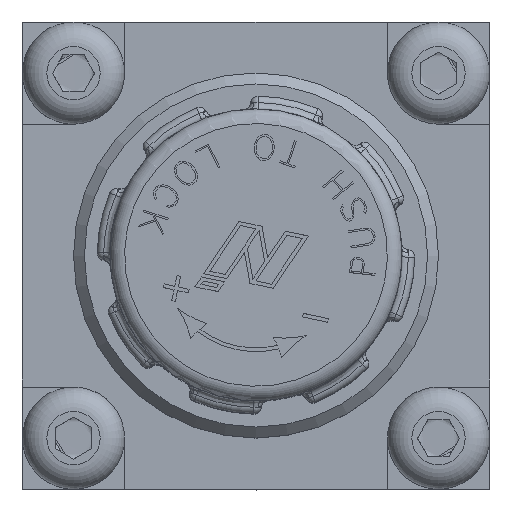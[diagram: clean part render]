
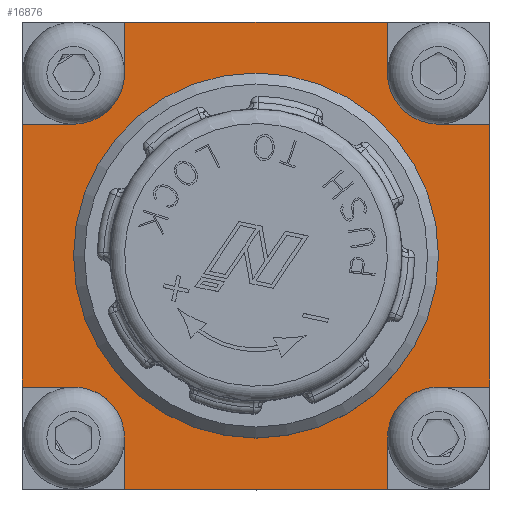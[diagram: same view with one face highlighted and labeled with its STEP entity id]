
A CAD part, top view. The second image highlights one B-rep face of the part: STEP entity #16876.
In plain terms, the highlighted planar face has unit normal (0, 0, 1).
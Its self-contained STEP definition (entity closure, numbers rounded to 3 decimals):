
#852=FACE_BOUND('',#5918,.T.);
#2285=LINE('',#29732,#3857);
#2293=LINE('',#29751,#3865);
#2295=LINE('',#29757,#3867);
#2303=LINE('',#29776,#3875);
#2305=LINE('',#29782,#3877);
#2313=LINE('',#29801,#3885);
#2319=LINE('',#29813,#3891);
#2320=LINE('',#29815,#3892);
#2323=LINE('',#29820,#3895);
#2326=LINE('',#29826,#3898);
#2330=LINE('',#29833,#3902);
#2335=LINE('',#29846,#3907);
#3857=VECTOR('',#22902,10.);
#3865=VECTOR('',#22920,10.);
#3867=VECTOR('',#22924,10.);
#3875=VECTOR('',#22942,10.);
#3877=VECTOR('',#22946,10.);
#3885=VECTOR('',#22964,10.);
#3891=VECTOR('',#22972,10.);
#3892=VECTOR('',#22975,10.);
#3895=VECTOR('',#22980,10.);
#3898=VECTOR('',#22985,10.);
#3902=VECTOR('',#22991,10.);
#3907=VECTOR('',#23006,10.);
#4858=FACE_OUTER_BOUND('',#5917,.T.);
#5917=EDGE_LOOP('',(#14966,#14967,#14968,#14969,#14970,#14971,#14972,#14973,
#14974,#14975,#14976,#14977,#14978,#14979,#14980,#14981));
#5918=EDGE_LOOP('',(#14982));
#6536=CIRCLE('',#18457,25.);
#6551=CIRCLE('',#18484,7.);
#6553=CIRCLE('',#18490,7.);
#6555=CIRCLE('',#18496,7.);
#6557=CIRCLE('',#18506,7.);
#7992=VERTEX_POINT('',#29616);
#8009=VERTEX_POINT('',#29728);
#8011=VERTEX_POINT('',#29731);
#8016=VERTEX_POINT('',#29745);
#8017=VERTEX_POINT('',#29749);
#8018=VERTEX_POINT('',#29753);
#8020=VERTEX_POINT('',#29756);
#8025=VERTEX_POINT('',#29770);
#8026=VERTEX_POINT('',#29774);
#8027=VERTEX_POINT('',#29778);
#8029=VERTEX_POINT('',#29781);
#8034=VERTEX_POINT('',#29795);
#8035=VERTEX_POINT('',#29799);
#8040=VERTEX_POINT('',#29811);
#8043=VERTEX_POINT('',#29825);
#8045=VERTEX_POINT('',#29832);
#8048=VERTEX_POINT('',#29842);
#10303=EDGE_CURVE('',#7992,#7992,#6536,.T.);
#10330=EDGE_CURVE('',#8011,#8009,#2285,.T.);
#10337=EDGE_CURVE('',#8016,#8011,#6551,.T.);
#10340=EDGE_CURVE('',#8017,#8016,#2293,.T.);
#10342=EDGE_CURVE('',#8020,#8018,#2295,.T.);
#10349=EDGE_CURVE('',#8025,#8020,#6553,.T.);
#10352=EDGE_CURVE('',#8026,#8025,#2303,.T.);
#10354=EDGE_CURVE('',#8029,#8027,#2305,.T.);
#10361=EDGE_CURVE('',#8034,#8029,#6555,.T.);
#10364=EDGE_CURVE('',#8035,#8034,#2313,.T.);
#10370=EDGE_CURVE('',#8040,#8009,#2319,.T.);
#10371=EDGE_CURVE('',#8017,#8018,#2320,.T.);
#10374=EDGE_CURVE('',#8026,#8027,#2323,.T.);
#10377=EDGE_CURVE('',#8035,#8043,#2326,.T.);
#10381=EDGE_CURVE('',#8045,#8043,#2330,.T.);
#10386=EDGE_CURVE('',#8048,#8045,#6557,.T.);
#10388=EDGE_CURVE('',#8040,#8048,#2335,.T.);
#14966=ORIENTED_EDGE('',*,*,#10330,.T.);
#14967=ORIENTED_EDGE('',*,*,#10370,.F.);
#14968=ORIENTED_EDGE('',*,*,#10388,.T.);
#14969=ORIENTED_EDGE('',*,*,#10386,.T.);
#14970=ORIENTED_EDGE('',*,*,#10381,.T.);
#14971=ORIENTED_EDGE('',*,*,#10377,.F.);
#14972=ORIENTED_EDGE('',*,*,#10364,.T.);
#14973=ORIENTED_EDGE('',*,*,#10361,.T.);
#14974=ORIENTED_EDGE('',*,*,#10354,.T.);
#14975=ORIENTED_EDGE('',*,*,#10374,.F.);
#14976=ORIENTED_EDGE('',*,*,#10352,.T.);
#14977=ORIENTED_EDGE('',*,*,#10349,.T.);
#14978=ORIENTED_EDGE('',*,*,#10342,.T.);
#14979=ORIENTED_EDGE('',*,*,#10371,.F.);
#14980=ORIENTED_EDGE('',*,*,#10340,.T.);
#14981=ORIENTED_EDGE('',*,*,#10337,.T.);
#14982=ORIENTED_EDGE('',*,*,#10303,.T.);
#15979=PLANE('',#18510);
#16876=ADVANCED_FACE('',(#4858,#852),#15979,.T.);
#18457=AXIS2_PLACEMENT_3D('',#29618,#22846,#22847);
#18484=AXIS2_PLACEMENT_3D('',#29746,#22914,#22915);
#18490=AXIS2_PLACEMENT_3D('',#29771,#22936,#22937);
#18496=AXIS2_PLACEMENT_3D('',#29796,#22958,#22959);
#18506=AXIS2_PLACEMENT_3D('',#29843,#23001,#23002);
#18510=AXIS2_PLACEMENT_3D('',#29850,#23011,#23012);
#22846=DIRECTION('center_axis',(0.,0.,
-1.));
#22847=DIRECTION('ref_axis',(-1.,0.,0.));
#22902=DIRECTION('',(0.,-1.,0.));
#22914=DIRECTION('center_axis',(0.,0.,
-1.));
#22915=DIRECTION('ref_axis',(1.,0.,0.));
#22920=DIRECTION('',(1.,0.,0.));
#22924=DIRECTION('',(-1.,0.,0.));
#22936=DIRECTION('center_axis',(0.,0.,
-1.));
#22937=DIRECTION('ref_axis',(0.,-1.,0.));
#22942=DIRECTION('',(0.,-1.,0.));
#22946=DIRECTION('',(0.,1.,0.));
#22958=DIRECTION('center_axis',(0.,0.,
-1.));
#22959=DIRECTION('ref_axis',(-1.,0.,0.));
#22964=DIRECTION('',(-1.,0.,0.));
#22972=DIRECTION('',(-1.,0.,0.));
#22975=DIRECTION('',(0.,1.,0.));
#22980=DIRECTION('',(1.,0.,0.));
#22985=DIRECTION('',(0.,-1.,0.));
#22991=DIRECTION('',(1.,0.,0.));
#23001=DIRECTION('center_axis',(0.,0.,
-1.));
#23002=DIRECTION('ref_axis',(0.,1.,0.));
#23006=DIRECTION('',(0.,1.,0.));
#23011=DIRECTION('center_axis',(0.,0.,
1.));
#23012=DIRECTION('ref_axis',(1.,0.,0.));
#29616=CARTESIAN_POINT('',(25.,0.,21.));
#29618=CARTESIAN_POINT('Origin',(0.,0.,
21.));
#29728=CARTESIAN_POINT('',(-18.,-32.,21.));
#29731=CARTESIAN_POINT('',(-18.,-25.,21.));
#29732=CARTESIAN_POINT('',(-18.,-17.,21.));
#29745=CARTESIAN_POINT('',(-25.,-18.,21.));
#29746=CARTESIAN_POINT('Origin',(-25.,-25.,21.));
#29749=CARTESIAN_POINT('',(-32.,-18.,21.));
#29751=CARTESIAN_POINT('',(-12.5,-18.,21.));
#29753=CARTESIAN_POINT('',(-32.,18.,21.));
#29756=CARTESIAN_POINT('',(-25.,18.,21.));
#29757=CARTESIAN_POINT('',(-17.,18.,21.));
#29770=CARTESIAN_POINT('',(-18.,25.,21.));
#29771=CARTESIAN_POINT('Origin',(-25.,25.,21.));
#29774=CARTESIAN_POINT('',(-18.,32.,21.));
#29776=CARTESIAN_POINT('',(-18.,12.5,21.));
#29778=CARTESIAN_POINT('',(18.,32.,21.));
#29781=CARTESIAN_POINT('',(18.,25.,21.));
#29782=CARTESIAN_POINT('',(18.,17.,21.));
#29795=CARTESIAN_POINT('',(25.,18.,21.));
#29796=CARTESIAN_POINT('Origin',(25.,25.,21.));
#29799=CARTESIAN_POINT('',(32.,18.,21.));
#29801=CARTESIAN_POINT('',(12.5,18.,21.));
#29811=CARTESIAN_POINT('',(18.,-32.,21.));
#29813=CARTESIAN_POINT('',(32.,-32.,21.));
#29815=CARTESIAN_POINT('',(-32.,-32.,21.));
#29820=CARTESIAN_POINT('',(-32.,32.,21.));
#29825=CARTESIAN_POINT('',(32.,-18.,21.));
#29826=CARTESIAN_POINT('',(32.,32.,21.));
#29832=CARTESIAN_POINT('',(25.,-18.,21.));
#29833=CARTESIAN_POINT('',(17.,-18.,21.));
#29842=CARTESIAN_POINT('',(18.,-25.,21.));
#29843=CARTESIAN_POINT('Origin',(25.,-25.,21.));
#29846=CARTESIAN_POINT('',(18.,-12.5,21.));
#29850=CARTESIAN_POINT('Origin',(0.,0.,
21.));
